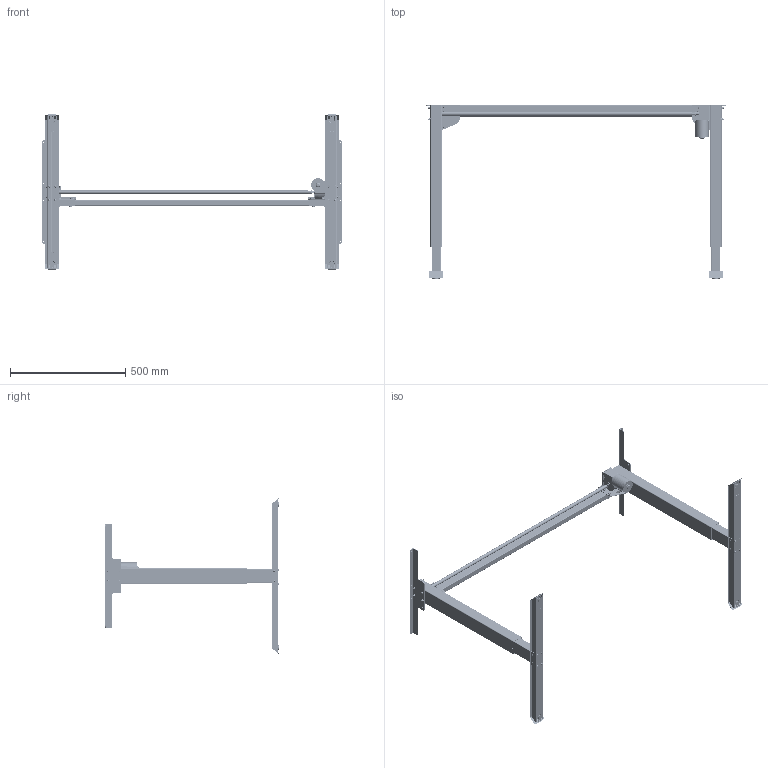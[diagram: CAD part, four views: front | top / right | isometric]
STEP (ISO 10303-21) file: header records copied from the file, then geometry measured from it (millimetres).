
FILE_DESCRIPTION (( 'STEP AP214' ), '1' );
FILE_NAME ('Tech-draw_501-20_XX129.STEP', '2024-01-12T09:04:30', ( '' ), ( '' ), 'SwSTEP 2.0', 'SolidWorks 2023', '' );
FILE_SCHEMA (( 'AUTOMOTIVE_DESIGN' ));
Length unit declared in the file: millimetre
Products named in the file (66): 360300; 357630; 360350_70mm; 156440_Shell; 353120; 314690; 156480; 357720; 332570; 156500_501-33 NEW; 360340_kopi_gammel; 356710_silver; 340760; 341220; 349470; 357610; 356430_60x40; 353100; 357710; 305990; 156470_501-33 NEW; 357650; 352350; 358000_Simplify_1; 356390; 160360_silver; 357640; 360310; 360490; 360290_Mirror; 159300_Shell; 353050; 159290_Shell; 301890_Bend 7; 353110; 360320; 358020; 347910_129; 353030; Tech-draw_501-20_XX129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
Assembly tree (159 placements, depth 7):
  305990
  Tech-draw_501-20_XX129
    160340_501-20 XS129
      347910_129
      144260_129
        347920_129
        340560
        341220
      340760  x3
      332570  x4
      160370_silver
        360300
        360330
        159290_Shell
          156440_Shell
            156460_Shell
              356390
              360340_kopi_gammel
            357580  x2
            357760_Højere
            358020
            357710
            352350
          357630  x2
          357640  x2
          341800
          156470_501-33 NEW
            357620
            360350_70mm
          352350
        159280_501-20
          359910_501-33 NY
          360380
          360490  x2
        360310
        358000_Simplify_1  x3
        340760  x2
        332570  x2
        349470  x2
        155730_silver
          357990_black
          356710_silver
          322810_zinc  x3
          353020
          353030
          151900
            353100
            322650_501-33  x2
            353050
            353060
            301890_Bend 7  x2
          353110  x2
          353120
          357720
        357610  x11
        358280  x4
        314690  x7
        325000  x8
      160360_silver
        159300_Shell
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Bounding box: 1305 x 756.2 x 674.9 mm (x, y, z)
Volume: 2110158.6 mm3; surface area: 2437479.5 mm2
Topology: 153 solids, 153 shells, 7918 faces, 20276 edges, 12743 vertices
Faces by surface type: plane 4127, cylinder 2383, bspline 589, cone 406, torus 212, sphere 201
Full cylindrical faces by diameter (mm): 1 x3, 1.2 x16, 1.6 x1, 1.7 x2, 1.9 x6, 2.2 x2, 2.5 x5, 3 x20, 3.3 x6, 4 x48, 4.2 x12, 4.5 x5, 4.98 x2, 5 x224, 5.5 x7, 6 x240, 6.4 x1, 7 x20, 7.4 x4, 7.5 x13, 8 x20, 8.2 x4, 8.5 x22, 9 x4, 10 x25, 11.9 x2, 12 x1, 13 x2, 14 x2, 16 x2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
Entity records: 168928 total; most frequent: CARTESIAN_POINT 59714, ORIENTED_EDGE 22410, DIRECTION 21572, EDGE_CURVE 11205, VERTEX_POINT 7339, AXIS2_PLACEMENT_3D 7321, VECTOR 6930, LINE 6930
